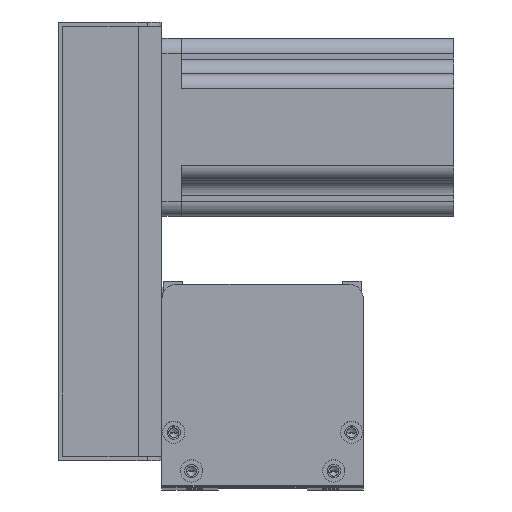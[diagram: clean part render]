
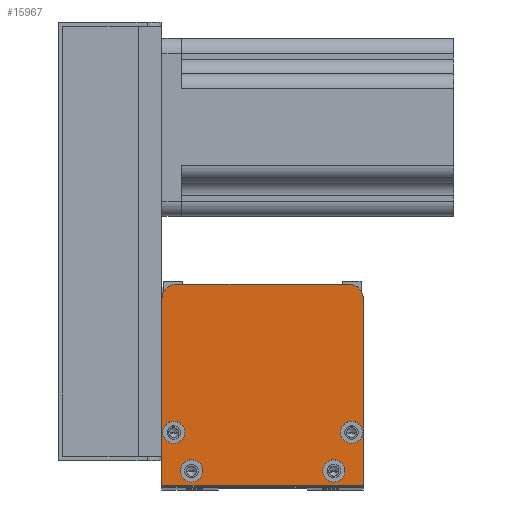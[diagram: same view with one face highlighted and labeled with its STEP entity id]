
A CAD part, top view. The second image highlights one B-rep face of the part: STEP entity #15967.
In plain terms, the highlighted planar face has unit normal (0, 0, 1) as drawn and (0, 0, -1) by its records, which use the part's own axes.
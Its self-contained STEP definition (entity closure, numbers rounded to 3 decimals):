
#251 = CARTESIAN_POINT ( 'NONE',  ( 63., 68., 0. ) ) ;
#304 = DIRECTION ( 'NONE',  ( 0., 0., -1. ) ) ;
#435 = EDGE_LOOP ( 'NONE', ( #2550, #19258 ) ) ;
#677 = VERTEX_POINT ( 'NONE', #11566 ) ;
#862 = DIRECTION ( 'NONE',  ( 0., 0., -1. ) ) ;
#996 = CIRCLE ( 'NONE', #19532, 3.75 ) ;
#1032 = DIRECTION ( 'NONE',  ( -1., 0., 0. ) ) ;
#1109 = EDGE_LOOP ( 'NONE', ( #10140, #3435 ) ) ;
#1119 = EDGE_CURVE ( 'NONE', #19325, #25310, #26289, .T. ) ;
#1234 = EDGE_CURVE ( 'NONE', #19325, #1477, #14098, .T. ) ;
#1360 = CIRCLE ( 'NONE', #13758, 5. ) ;
#1420 = VERTEX_POINT ( 'NONE', #23626 ) ;
#1477 = VERTEX_POINT ( 'NONE', #23528 ) ;
#1615 = DIRECTION ( 'NONE',  ( 0., 0., -1. ) ) ;
#1971 = AXIS2_PLACEMENT_3D ( 'NONE', #13083, #11169, #2719 ) ;
#2157 = LINE ( 'NONE', #7077, #25571 ) ;
#2436 = DIRECTION ( 'NONE',  ( 0., 0., -1. ) ) ;
#2550 = ORIENTED_EDGE ( 'NONE', *, *, #23115, .F. ) ;
#2719 = DIRECTION ( 'NONE',  ( -1., 0., 0. ) ) ;
#3104 = VECTOR ( 'NONE', #14505, 1000. ) ;
#3107 = CARTESIAN_POINT ( 'NONE',  ( 54.25, 5., 0. ) ) ;
#3144 = EDGE_LOOP ( 'NONE', ( #18934, #12176 ) ) ;
#3379 = VERTEX_POINT ( 'NONE', #26314 ) ;
#3435 = ORIENTED_EDGE ( 'NONE', *, *, #16990, .F. ) ;
#3633 = EDGE_CURVE ( 'NONE', #13243, #11021, #996, .T. ) ;
#3845 = VERTEX_POINT ( 'NONE', #4214 ) ;
#4025 = FACE_BOUND ( 'NONE', #1109, .T. ) ;
#4214 = CARTESIAN_POINT ( 'NONE',  ( 0., 63., 0. ) ) ;
#4291 = ORIENTED_EDGE ( 'NONE', *, *, #25485, .T. ) ;
#4396 = CARTESIAN_POINT ( 'NONE',  ( 64., 18., 0. ) ) ;
#4929 = CARTESIAN_POINT ( 'NONE',  ( 68., 68., 0. ) ) ;
#5665 = DIRECTION ( 'NONE',  ( 0., 0., -1. ) ) ;
#5998 = CARTESIAN_POINT ( 'NONE',  ( 68., 0., 0. ) ) ;
#6345 = ORIENTED_EDGE ( 'NONE', *, *, #15556, .F. ) ;
#6416 = FACE_BOUND ( 'NONE', #9676, .T. ) ;
#6464 = DIRECTION ( 'NONE',  ( 0., 0., -1. ) ) ;
#6566 = DIRECTION ( 'NONE',  ( -1., 0., 0. ) ) ;
#6740 = EDGE_CURVE ( 'NONE', #10474, #3379, #22312, .T. ) ;
#7077 = CARTESIAN_POINT ( 'NONE',  ( 0., 0., 0. ) ) ;
#7097 = DIRECTION ( 'NONE',  ( -1., 0., 0. ) ) ;
#7281 = CARTESIAN_POINT ( 'NONE',  ( 10., 5., 0. ) ) ;
#7362 = CARTESIAN_POINT ( 'NONE',  ( 58., 5., 0. ) ) ;
#7999 = DIRECTION ( 'NONE',  ( 0., 0., -1. ) ) ;
#8403 = LINE ( 'NONE', #5998, #16598 ) ;
#8484 = VERTEX_POINT ( 'NONE', #21534 ) ;
#8774 = CARTESIAN_POINT ( 'NONE',  ( 58., 5., 0. ) ) ;
#8891 = CIRCLE ( 'NONE', #24222, 3.75 ) ;
#9341 = FACE_BOUND ( 'NONE', #435, .T. ) ;
#9508 = CARTESIAN_POINT ( 'NONE',  ( 0., 0., 0. ) ) ;
#9557 = AXIS2_PLACEMENT_3D ( 'NONE', #10782, #2436, #12885 ) ;
#9676 = EDGE_LOOP ( 'NONE', ( #14800, #23082 ) ) ;
#9808 = EDGE_CURVE ( 'NONE', #19887, #1420, #8403, .T. ) ;
#9819 = AXIS2_PLACEMENT_3D ( 'NONE', #9508, #15914, #15735 ) ;
#9882 = EDGE_CURVE ( 'NONE', #3379, #10474, #17925, .T. ) ;
#10140 = ORIENTED_EDGE ( 'NONE', *, *, #13504, .F. ) ;
#10173 = VERTEX_POINT ( 'NONE', #17991 ) ;
#10474 = VERTEX_POINT ( 'NONE', #25188 ) ;
#10501 = VECTOR ( 'NONE', #7097, 1000. ) ;
#10781 = AXIS2_PLACEMENT_3D ( 'NONE', #4396, #304, #6566 ) ;
#10782 = CARTESIAN_POINT ( 'NONE',  ( 4., 18., 0. ) ) ;
#11021 = VERTEX_POINT ( 'NONE', #18971 ) ;
#11092 = DIRECTION ( 'NONE',  ( -1., 0., 0. ) ) ;
#11169 = DIRECTION ( 'NONE',  ( 0., 0., -1. ) ) ;
#11206 = CIRCLE ( 'NONE', #15261, 3.75 ) ;
#11545 = EDGE_CURVE ( 'NONE', #11021, #13243, #17840, .T. ) ;
#11566 = CARTESIAN_POINT ( 'NONE',  ( 61.75, 5., 0. ) ) ;
#12176 = ORIENTED_EDGE ( 'NONE', *, *, #9882, .F. ) ;
#12231 = CIRCLE ( 'NONE', #18331, 3.75 ) ;
#12629 = AXIS2_PLACEMENT_3D ( 'NONE', #20300, #5665, #13677 ) ;
#12671 = CARTESIAN_POINT ( 'NONE',  ( 0., 0., 0. ) ) ;
#12755 = EDGE_CURVE ( 'NONE', #677, #15957, #12231, .T. ) ;
#12885 = DIRECTION ( 'NONE',  ( -1., 0., 0. ) ) ;
#13005 = DIRECTION ( 'NONE',  ( 0., 0., -1. ) ) ;
#13083 = CARTESIAN_POINT ( 'NONE',  ( 64., 18., 0. ) ) ;
#13243 = VERTEX_POINT ( 'NONE', #21076 ) ;
#13504 = EDGE_CURVE ( 'NONE', #10173, #8484, #8891, .T. ) ;
#13677 = DIRECTION ( 'NONE',  ( 1., 0., 0. ) ) ;
#13758 = AXIS2_PLACEMENT_3D ( 'NONE', #18363, #7999, #24575 ) ;
#14098 = CIRCLE ( 'NONE', #12629, 5. ) ;
#14266 = CARTESIAN_POINT ( 'NONE',  ( 4., 18., 0. ) ) ;
#14275 = FACE_BOUND ( 'NONE', #3144, .T. ) ;
#14505 = DIRECTION ( 'NONE',  ( 0., 1., 0. ) ) ;
#14533 = DIRECTION ( 'NONE',  ( -1., 0., 0. ) ) ;
#14800 = ORIENTED_EDGE ( 'NONE', *, *, #3633, .F. ) ;
#15261 = AXIS2_PLACEMENT_3D ( 'NONE', #7362, #17243, #1032 ) ;
#15409 = ORIENTED_EDGE ( 'NONE', *, *, #1119, .F. ) ;
#15556 = EDGE_CURVE ( 'NONE', #1420, #1477, #22616, .T. ) ;
#15735 = DIRECTION ( 'NONE',  ( 1., 0., 0. ) ) ;
#15914 = DIRECTION ( 'NONE',  ( 0., 0., 1. ) ) ;
#15957 = VERTEX_POINT ( 'NONE', #3107 ) ;
#15967 = ADVANCED_FACE ( 'NONE', ( #14275, #6416, #4025, #9341, #16541 ), #26350, .F. ) ;
#16541 = FACE_OUTER_BOUND ( 'NONE', #26898, .T. ) ;
#16582 = CARTESIAN_POINT ( 'NONE',  ( 68., 0., 0. ) ) ;
#16598 = VECTOR ( 'NONE', #23118, 1000. ) ;
#16990 = EDGE_CURVE ( 'NONE', #8484, #10173, #24110, .T. ) ;
#17243 = DIRECTION ( 'NONE',  ( 0., 0., -1. ) ) ;
#17781 = DIRECTION ( 'NONE',  ( 0., -1., 0. ) ) ;
#17840 = CIRCLE ( 'NONE', #9557, 3.75 ) ;
#17925 = CIRCLE ( 'NONE', #10781, 3.75 ) ;
#17991 = CARTESIAN_POINT ( 'NONE',  ( 6.25, 5., 0. ) ) ;
#18331 = AXIS2_PLACEMENT_3D ( 'NONE', #8774, #13005, #11092 ) ;
#18363 = CARTESIAN_POINT ( 'NONE',  ( 5., 63., 0. ) ) ;
#18381 = DIRECTION ( 'NONE',  ( -1., 0., 0. ) ) ;
#18934 = ORIENTED_EDGE ( 'NONE', *, *, #6740, .F. ) ;
#18971 = CARTESIAN_POINT ( 'NONE',  ( 7.75, 18., 0. ) ) ;
#19258 = ORIENTED_EDGE ( 'NONE', *, *, #12755, .F. ) ;
#19325 = VERTEX_POINT ( 'NONE', #251 ) ;
#19532 = AXIS2_PLACEMENT_3D ( 'NONE', #14266, #1615, #18381 ) ;
#19564 = ORIENTED_EDGE ( 'NONE', *, *, #24847, .F. ) ;
#19763 = ORIENTED_EDGE ( 'NONE', *, *, #9808, .F. ) ;
#19791 = ORIENTED_EDGE ( 'NONE', *, *, #1234, .T. ) ;
#19887 = VERTEX_POINT ( 'NONE', #12671 ) ;
#20300 = CARTESIAN_POINT ( 'NONE',  ( 63., 63., 0. ) ) ;
#20789 = CARTESIAN_POINT ( 'NONE',  ( 10., 5., 0. ) ) ;
#21076 = CARTESIAN_POINT ( 'NONE',  ( 0.25, 18., 0. ) ) ;
#21534 = CARTESIAN_POINT ( 'NONE',  ( 13.75, 5., 0. ) ) ;
#22312 = CIRCLE ( 'NONE', #1971, 3.75 ) ;
#22616 = LINE ( 'NONE', #16582, #3104 ) ;
#23082 = ORIENTED_EDGE ( 'NONE', *, *, #11545, .F. ) ;
#23102 = AXIS2_PLACEMENT_3D ( 'NONE', #20789, #6464, #14533 ) ;
#23115 = EDGE_CURVE ( 'NONE', #15957, #677, #11206, .T. ) ;
#23118 = DIRECTION ( 'NONE',  ( 1., 0., 0. ) ) ;
#23528 = CARTESIAN_POINT ( 'NONE',  ( 68., 63., 0. ) ) ;
#23626 = CARTESIAN_POINT ( 'NONE',  ( 68., 0., 0. ) ) ;
#24110 = CIRCLE ( 'NONE', #23102, 3.75 ) ;
#24222 = AXIS2_PLACEMENT_3D ( 'NONE', #7281, #862, #26217 ) ;
#24575 = DIRECTION ( 'NONE',  ( 1., 0., 0. ) ) ;
#24847 = EDGE_CURVE ( 'NONE', #3845, #19887, #2157, .T. ) ;
#25062 = CARTESIAN_POINT ( 'NONE',  ( 5., 68., 0. ) ) ;
#25188 = CARTESIAN_POINT ( 'NONE',  ( 60.25, 18., 0. ) ) ;
#25310 = VERTEX_POINT ( 'NONE', #25062 ) ;
#25485 = EDGE_CURVE ( 'NONE', #3845, #25310, #1360, .T. ) ;
#25571 = VECTOR ( 'NONE', #17781, 1000. ) ;
#26217 = DIRECTION ( 'NONE',  ( -1., 0., 0. ) ) ;
#26289 = LINE ( 'NONE', #4929, #10501 ) ;
#26314 = CARTESIAN_POINT ( 'NONE',  ( 67.75, 18., 0. ) ) ;
#26350 = PLANE ( 'NONE',  #9819 ) ;
#26898 = EDGE_LOOP ( 'NONE', ( #19564, #4291, #15409, #19791, #6345, #19763 ) ) ;
